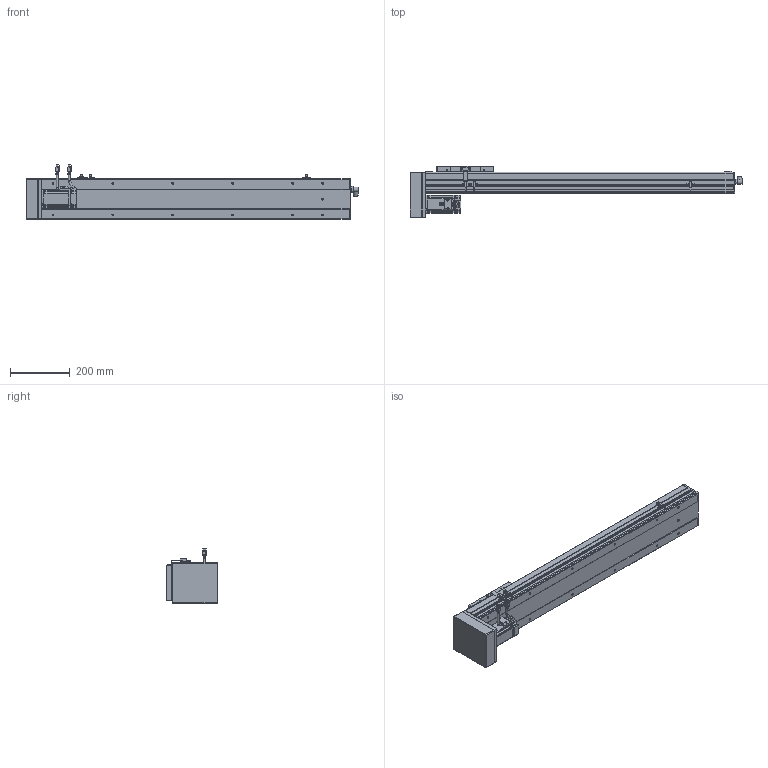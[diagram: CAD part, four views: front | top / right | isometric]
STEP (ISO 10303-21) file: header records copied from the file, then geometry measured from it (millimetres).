
FILE_DESCRIPTION(/* description */ ('STEP AP214'),/* implementation_level */ '2;1');
FILE_NAME(/* name */ 'PSC140-L05-S750-BM-P40-C1-N(0-P)',/* time_stamp */ '2022-06-13T03:21:16+02:00',/* author */ ('License CC BY-ND 4.0'),/* organization */ ('CADENAS'),/* preprocessor_version */ 'ST-DEVELOPER v18.102',/* originating_system */ 'PARTsolutions',/* authorisation */ ' ');
FILE_SCHEMA (('AUTOMOTIVE_DESIGN {1 0 10303 214 3 1 1}'));
Length unit declared in the file: millimetre
Products named in the file (11): PSC140-L05-S750-BM-P40-C1-N(0-P); P40-s2; P40-c2; P40-s1; P40-c1; P40-p1; PSC140-BM-body2; PSC140-sensor; PSC140-BM-SLIDER; PSC140-S750-BM-P40-C1-P_BODY1; PSC140-L05-S750-BM-P40-C1-N(0-P)_dummy
Assembly tree (12 placements, depth 2):
  PSC140-L05-S750-BM-P40-C1-N(0-P)
    P40-s2
    P40-c2
    P40-s1
    P40-c1
    P40-p1
    PSC140-BM-body2
    PSC140-sensor  x3
    PSC140-BM-SLIDER
    PSC140-S750-BM-P40-C1-P_BODY1
    PSC140-L05-S750-BM-P40-C1-N(0-P)_dummy
Bounding box: 1108 x 171.5 x 182.48 mm (x, y, z)
Volume: 11610796.9 mm3; surface area: 683602.7 mm2
Topology: 11 solids, 11 shells, 1238 faces, 3195 edges, 2114 vertices
Faces by surface type: plane 862, cylinder 317, cone 40, torus 19
Full cylindrical faces by diameter (mm): 1 x8, 2.6 x10, 2.8 x3, 3.3 x8, 4.5 x12, 4.6 x3, 4.917 x16, 5 x4, 5.5 x8, 6 x11, 7 x10, 9 x2, 10 x1, 11 x1, 12 x1, 13.74 x1, 14 x1, 16.4 x2, 16.5 x1, 36 x1, 50 x2
Entity records: 34272 total; most frequent: CARTESIAN_POINT 5984, DIRECTION 5765, ORIENTED_EDGE 5562, EDGE_CURVE 2781, LINE 2105, VECTOR 2105, VERTEX_POINT 1934, AXIS2_PLACEMENT_3D 1830
